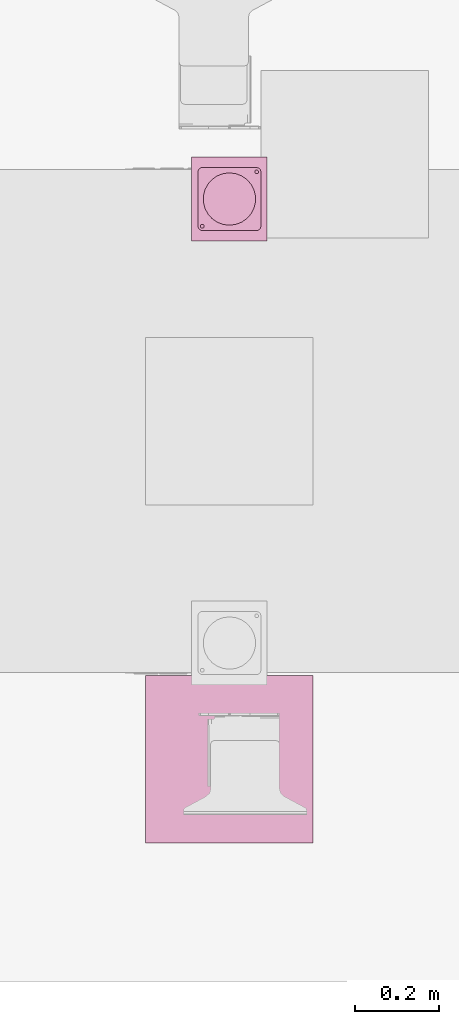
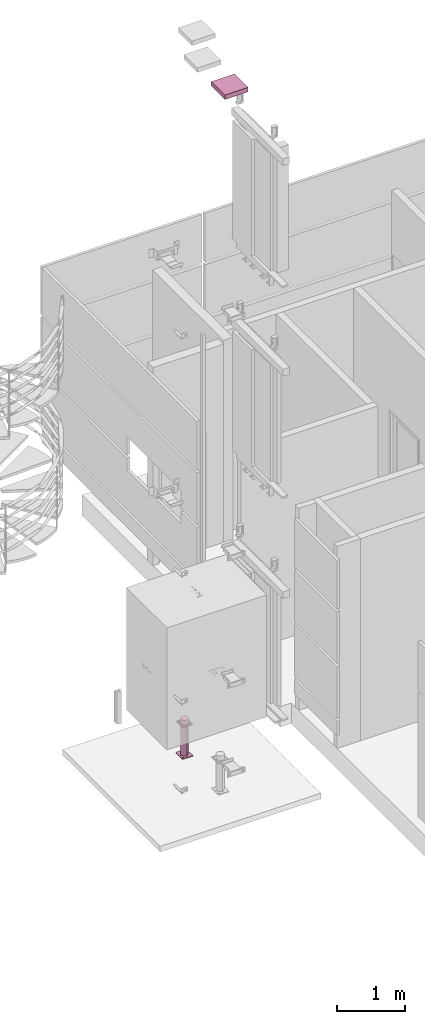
# One storey, part 12 of 15: 3 transport elements.
"""IFC2X3 building model written with IfcOpenShell, lengths in millimetres."""

from ifc_helpers import new_model, entity, si_unit, converted_unit, derived_unit, direction, frame, frame_2d, origin, place, context, subcontext, project, spatial, polyline, circle_curve, parameter, trimmed, segment, composite_curve, circle, outline, extrude, faceted_brep, source, transform, mapped, material, material_list, type_object, type_shapes, element, save


model = new_model("IFC2X3")

# Units and contexts
model_context = context("Model", 3, precision=0.01, world=origin(), true_north=direction((6.12303176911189e-17, 1.0)))
body_context = subcontext(model_context, "Body", "Model", "MODEL_VIEW")
ifc_project = project(units=[si_unit("LENGTHUNIT", "METRE", prefix="MILLI"), si_unit("AREAUNIT", "SQUARE_METRE"), si_unit("VOLUMEUNIT", "CUBIC_METRE"), converted_unit("PLANEANGLEUNIT", "DEGREE", entity("IfcRatioMeasure", 0.0174532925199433), si_unit("PLANEANGLEUNIT", "RADIAN"), dimensions=[0, 0, 0, 0, 0, 0, 0]), si_unit("MASSUNIT", "GRAM", prefix="KILO"), derived_unit("MASSDENSITYUNIT", [(si_unit("MASSUNIT", "GRAM", prefix="KILO"), 1), (si_unit("LENGTHUNIT", "METRE"), -3)]), si_unit("TIMEUNIT", "SECOND"), si_unit("FREQUENCYUNIT", "HERTZ"), si_unit("THERMODYNAMICTEMPERATUREUNIT", "DEGREE_CELSIUS"), derived_unit("THERMALTRANSMITTANCEUNIT", [(si_unit("MASSUNIT", "GRAM", prefix="KILO"), 1), (si_unit("THERMODYNAMICTEMPERATUREUNIT", "KELVIN"), -1), (si_unit("TIMEUNIT", "SECOND"), -3)]), derived_unit("VOLUMETRICFLOWRATEUNIT", [(si_unit("LENGTHUNIT", "METRE"), 3), (si_unit("TIMEUNIT", "SECOND"), -1)]), si_unit("ELECTRICCURRENTUNIT", "AMPERE"), si_unit("ELECTRICVOLTAGEUNIT", "VOLT"), si_unit("POWERUNIT", "WATT"), si_unit("FORCEUNIT", "NEWTON", prefix="KILO"), si_unit("ILLUMINANCEUNIT", "LUX"), si_unit("LUMINOUSFLUXUNIT", "LUMEN"), si_unit("LUMINOUSINTENSITYUNIT", "CANDELA"), derived_unit("USERDEFINED", [(si_unit("MASSUNIT", "GRAM", prefix="KILO"), -1), (si_unit("LENGTHUNIT", "METRE"), -2), (si_unit("TIMEUNIT", "SECOND"), 3), (si_unit("LUMINOUSFLUXUNIT", "LUMEN"), 1)]), derived_unit("LINEARVELOCITYUNIT", [(si_unit("LENGTHUNIT", "METRE"), 1), (si_unit("TIMEUNIT", "SECOND"), -1)]), si_unit("PRESSUREUNIT", "PASCAL"), derived_unit("USERDEFINED", [(si_unit("LENGTHUNIT", "METRE"), -2), (si_unit("MASSUNIT", "GRAM", prefix="KILO"), 1), (si_unit("TIMEUNIT", "SECOND"), -2)])], contexts=[model_context])

# Site, building, storey
site_placement = place(None, frame((-151.875543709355, 2715.0, 0.0)))
site = spatial("IfcSite", under=ifc_project, at=site_placement, Name="Surface", CompositionType="ELEMENT")
building_placement = place(site_placement, origin())
building = spatial("IfcBuilding", under=site, at=building_placement, CompositionType="ELEMENT")
storey_placement = place(building_placement, frame((0.0, 0.0, -135.0)))
storey = spatial("IfcBuildingStorey", under=building, at=storey_placement, Name="uus 1 korrus", CompositionType="ELEMENT", Elevation=-134.99999999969)

# Transport elements
transport_element_type_1 = type_object("IfcTransportElementType", Name="KONE_Buffer_PU_125x80D")
shared_shape_1 = source(origin(), body_context, "Body", "SweptSolid", [
    extrude(outline(composite_curve([segment(polyline([(-65.0, -75.0), (65.0, -75.0)]), True, "CONTINUOUS"), segment(trimmed(circle_curve(frame_2d((65.0, -65.0), x_axis=(-1.0, 0.0)), 10.0), [parameter(90.0000000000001)], [parameter(180.0)], True, "PARAMETER"), True, "CONTINUOUS"), segment(polyline([(75.0, -65.0), (75.0, 65.0)]), True, "CONTINUOUS"), segment(trimmed(circle_curve(frame_2d((65.0, 65.0), x_axis=(-1.0, 0.0)), 10.0), [parameter(180.0)], [parameter(269.999999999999)], True, "PARAMETER"), True, "CONTINUOUS"), segment(polyline([(65.0, 75.0), (-65.0, 75.0)]), True, "CONTINUOUS"), segment(trimmed(circle_curve(frame_2d((-65.0, 65.0), x_axis=(-1.0, 0.0)), 10.0), [parameter(269.999999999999)], [parameter(360.0)], True, "PARAMETER"), True, "CONTINUOUS"), segment(polyline([(-75.0, 65.0), (-75.0, -65.0)]), True, "CONTINUOUS"), segment(trimmed(circle_curve(frame_2d((-65.0, -65.0), x_axis=(-1.0, 0.0)), 10.0), [parameter(0.0)], [parameter(90.0000000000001)], True, "PARAMETER"), True, "CONTINUOUS")], self_intersect=False), holes=[composite_curve([segment(trimmed(circle_curve(frame_2d((65.0, -65.0), x_axis=(-1.0, 0.0)), 4.5), [parameter(180.0)], [parameter(0.0)], True, "PARAMETER"), False, "CONTINUOUS"), segment(trimmed(circle_curve(frame_2d((65.0, -65.0), x_axis=(-1.0, 0.0)), 4.5), [parameter(2.03555499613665e-13)], [parameter(180.0)], True, "PARAMETER"), False, "CONTINUOUS")], self_intersect=False), composite_curve([segment(trimmed(circle_curve(frame_2d((-65.0, 65.0), x_axis=(1.0, 0.0)), 4.5), [parameter(180.0)], [parameter(0.0)], True, "PARAMETER"), False, "CONTINUOUS"), segment(trimmed(circle_curve(frame_2d((-65.0, 65.0), x_axis=(1.0, 0.0)), 4.5), [parameter(4.07110999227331e-13)], [parameter(180.0)], True, "PARAMETER"), False, "CONTINUOUS")], self_intersect=False)]), frame((129.368600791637, 20.0915440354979, 0.0), z_axis=(0.0, 0.0, 1.0), x_axis=(-1.0, 0.0, 0.0)), (0.0, 0.0, 1.0), 2.99999999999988),
    extrude(circle(Radius=62.5, at=frame_2d((1.69197988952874e-14, -1.01518793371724e-13), x_axis=(1.0, 0.0))), frame((129.368600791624, 20.0915440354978, 3.0), z_axis=(0.0, 0.0, 1.0), x_axis=(-1.0, 0.0, 0.0)), (0.0, 0.0, 1.0), 79.9999999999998),
])
type_shapes(transport_element_type_1, [shared_shape_1])
transport_element_1_placement = place(storey_placement, frame((30776.7093111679, 21000.6313993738, -525.0), z_axis=(0.0, 0.0, 1.0), x_axis=(0.0, 1.0, 0.0)))
element("IfcTransportElement", 1, at=transport_element_1_placement, inside=storey, type_object=transport_element_type_1, Name="KONE_Buffer_PU_125x80D_CAR:KONE_Buffer_PU_125x80D", ObjectType="KONE_Buffer_PU_125x80D", CapacityByNumber=0.0, CapacityByWeight=0.0, OperationType="ELEVATOR", context=body_context, shape_type="MappedRepresentation", body=[
    mapped(shared_shape_1, transform((0.0, 0.0, 0.0), scale=1.0)),
])
transport_element_type_2 = type_object("IfcTransportElementType", Name="KONE_Buffer_Extension_KM812340G06")
shared_shape_2 = source(origin(), body_context, "Body", "Brep", [
    faceted_brep([(200.0, 180.0, 10.0), (182.499999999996, 37.9903810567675, 10.0), (184.374999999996, 34.7427857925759, 10.0), (186.249999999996, 31.4951905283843, 10.0), (188.124999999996, 28.2475952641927, 10.0), (190.0, 25.0, 10.0), (200.0, 0.0, 10.0), (178.749999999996, 37.9903810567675, 10.0), (175.0, 37.9903810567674, 10.0), (171.249999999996, 37.9903810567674, 10.0), (167.499999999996, 37.9903810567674, 10.0), (40.0, 155.0, 10.0), (38.1249999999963, 158.247595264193, 10.0), (36.2499999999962, 161.495190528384, 10.0), (34.3749999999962, 164.742785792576, 10.0), (32.4999999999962, 167.990381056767, 10.0), (0.0, 180.0, 10.0), (28.7499999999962, 167.990381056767, 10.0), (25.0, 167.990381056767, 10.0), (21.2499999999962, 167.990381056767, 10.0), (17.4999999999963, 167.990381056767, 10.0), (15.8630176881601, 165.155044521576, 10.0), (14.226035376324, 162.319707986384, 10.0), (12.1130176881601, 158.659853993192, 10.0), (10.0, 155.0, 10.0), (0.0, 0.0, 10.0), (167.499999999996, 12.0096189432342, 10.0), (165.624999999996, 15.2572142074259, 10.0), (163.749999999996, 18.5048094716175, 10.0), (161.874999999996, 21.7524047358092, 10.0), (160.0, 25.0, 10.0), (32.4999999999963, 142.009618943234, 10.0), (28.7499999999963, 142.009618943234, 10.0), (25.0, 142.009618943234, 10.0), (21.2499999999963, 142.009618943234, 10.0), (17.4999999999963, 142.009618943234, 10.0), (15.6249999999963, 145.257214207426, 10.0), (13.7499999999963, 148.504809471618, 10.0), (11.8749999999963, 151.752404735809, 10.0), (37.8869823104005, 151.340146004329, 10.0), (35.7739646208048, 147.680292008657, 10.0), (34.1369823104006, 144.844955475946, 10.0), (162.11301768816, 28.6598539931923, 10.0), (164.226035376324, 32.3197079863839, 10.0), (165.86301768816, 35.1550445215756, 10.0), (187.8869823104, 21.3401460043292, 10.0), (185.773964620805, 17.6802920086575, 10.0), (184.1369823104, 14.8449554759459, 10.0), (182.499999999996, 12.0096189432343, 10.0), (178.749999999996, 12.0096189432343, 10.0), (175.0, 12.0096189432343, 10.0), (171.249999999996, 12.0096189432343, 10.0), (0.0, 180.0, 0.0), (10.0, 155.0, 0.0), (0.0, 0.0, 0.0), (12.1130176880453, 158.659853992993, 0.0), (13.7499999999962, 161.495190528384, 0.0), (15.6249999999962, 164.742785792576, 0.0), (17.4999999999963, 167.990381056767, 0.0), (21.2499999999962, 167.990381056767, 0.0), (25.0, 167.990381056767, 0.0), (28.7499999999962, 167.990381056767, 0.0), (32.4999999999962, 167.990381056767, 0.0), (200.0, 180.0, 0.0), (34.3749999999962, 164.742785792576, 0.0), (36.2499999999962, 161.495190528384, 0.0), (37.8869823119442, 158.659853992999, 0.0), (40.0, 155.0, 0.0), (167.499999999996, 37.9903810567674, 0.0), (171.249999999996, 37.9903810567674, 0.0), (175.0, 37.9903810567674, 0.0), (178.749999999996, 37.9903810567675, 0.0), (182.499999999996, 37.9903810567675, 0.0), (184.374999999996, 34.7427857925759, 0.0), (186.249999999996, 31.4951905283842, 0.0), (187.886982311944, 28.6598539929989, 0.0), (190.0, 25.0, 0.0), (200.0, 0.0, 0.0), (167.499999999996, 12.0096189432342, 0.0), (171.249999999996, 12.0096189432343, 0.0), (175.0, 12.0096189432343, 0.0), (178.749999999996, 12.0096189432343, 0.0), (182.499999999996, 12.0096189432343, 0.0), (184.374999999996, 15.2572142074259, 0.0), (186.249999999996, 18.5048094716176, 0.0), (187.886982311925, 21.340146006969, 0.0), (37.8869823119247, 151.340146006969, 0.0), (36.2499999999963, 148.504809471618, 0.0), (34.3749999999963, 145.257214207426, 0.0), (32.4999999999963, 142.009618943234, 0.0), (165.624999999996, 34.7427857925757, 0.0), (163.749999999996, 31.4951905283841, 0.0), (162.113017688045, 28.6598539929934, 0.0), (160.0, 25.0, 0.0), (162.113017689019, 21.3401460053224, 0.0), (163.749999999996, 18.5048094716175, 0.0), (165.624999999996, 15.2572142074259, 0.0), (28.7499999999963, 142.009618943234, 0.0), (12.1130176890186, 151.340146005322, 0.0), (13.7499999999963, 148.504809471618, 0.0), (15.6249999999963, 145.257214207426, 0.0), (17.4999999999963, 142.009618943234, 0.0), (21.2499999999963, 142.009618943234, 0.0), (25.0, 142.009618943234, 0.0)], [[[0, 1, 2]], [[0, 2, 3]], [[0, 3, 4]], [[0, 4, 5]], [[5, 6, 0]], [[0, 7, 1]], [[0, 8, 7]], [[0, 9, 8]], [[0, 10, 9]], [[10, 0, 11]], [[0, 12, 11]], [[0, 13, 12]], [[0, 14, 13]], [[0, 15, 14]], [[15, 0, 16]], [[16, 17, 15]], [[16, 18, 17]], [[16, 19, 18]], [[16, 20, 19]], [[16, 21, 20]], [[16, 22, 21]], [[16, 23, 22]], [[16, 24, 23]], [[24, 16, 25]], [[6, 26, 25]], [[25, 26, 27]], [[25, 27, 28]], [[25, 28, 29]], [[25, 29, 30]], [[31, 25, 30]], [[25, 31, 32]], [[25, 32, 33]], [[25, 33, 34]], [[25, 34, 35]], [[25, 35, 36]], [[25, 36, 37]], [[25, 37, 38]], [[25, 38, 24]], [[10, 11, 39]], [[10, 39, 40]], [[10, 40, 41]], [[10, 41, 31]], [[31, 30, 42]], [[31, 42, 43]], [[31, 43, 44]], [[31, 44, 10]], [[6, 5, 45]], [[6, 45, 46]], [[6, 46, 47]], [[6, 47, 48]], [[6, 48, 49]], [[6, 49, 50]], [[6, 50, 51]], [[6, 51, 26]], [[52, 53, 54]], [[52, 55, 53]], [[52, 56, 55]], [[52, 57, 56]], [[52, 58, 57]], [[52, 59, 58]], [[52, 60, 59]], [[52, 61, 60]], [[52, 62, 61]], [[52, 63, 62]], [[63, 64, 62]], [[63, 65, 64]], [[63, 66, 65]], [[63, 67, 66]], [[67, 63, 68]], [[63, 69, 68]], [[63, 70, 69]], [[63, 71, 70]], [[63, 72, 71]], [[63, 73, 72]], [[63, 74, 73]], [[63, 75, 74]], [[63, 76, 75]], [[77, 76, 63]], [[78, 77, 54]], [[77, 78, 79]], [[77, 79, 80]], [[77, 80, 81]], [[77, 81, 82]], [[77, 82, 83]], [[77, 83, 84]], [[77, 84, 85]], [[77, 85, 76]], [[68, 86, 67]], [[68, 87, 86]], [[68, 88, 87]], [[68, 89, 88]], [[89, 68, 90]], [[89, 90, 91]], [[89, 91, 92]], [[89, 92, 93]], [[54, 89, 93]], [[54, 93, 94]], [[54, 94, 95]], [[54, 95, 96]], [[54, 96, 78]], [[54, 97, 89]], [[54, 53, 98]], [[54, 98, 99]], [[54, 99, 100]], [[54, 100, 101]], [[54, 101, 102]], [[54, 102, 103]], [[54, 103, 97]], [[16, 0, 63, 52]], [[25, 16, 52, 54]], [[6, 25, 54, 77]], [[0, 6, 77, 63]], [[20, 21, 22, 23, 24, 53, 55, 56, 57, 58]], [[12, 13, 14, 15, 62, 64, 65, 66, 67, 11]], [[62, 15, 17, 18, 19, 20, 58, 59, 60, 61]], [[31, 41, 40, 39, 11, 67, 86, 87, 88, 89]], [[38, 37, 36, 35, 101, 100, 99, 98, 53, 24]], [[101, 35, 34, 33, 32, 31, 89, 97, 103, 102]], [[10, 44, 43, 42, 30, 93, 92, 91, 90, 68]], [[4, 3, 2, 1, 72, 73, 74, 75, 76, 5]], [[72, 1, 7, 8, 9, 10, 68, 69, 70, 71]], [[48, 47, 46, 45, 5, 76, 85, 84, 83, 82]], [[29, 28, 27, 26, 78, 96, 95, 94, 93, 30]], [[78, 26, 51, 50, 49, 48, 82, 81, 80, 79]]]),
    faceted_brep([(100.0, 90.0, 565.0), (100.0, 159.850000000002, 565.0), (91.2687499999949, 151.118750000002, 565.0), (82.5374999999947, 142.387500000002, 565.0), (73.8062499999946, 133.656250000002, 565.0), (65.0749999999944, 124.925000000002, 565.0), (56.3437499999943, 116.193750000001, 565.0), (47.6124999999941, 107.462500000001, 565.0), (38.881249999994, 98.7312500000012, 565.0), (30.1499999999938, 90.0, 565.0), (38.3117181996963, 81.8382818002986, 565.0), (108.731249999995, 151.118750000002, 565.0), (117.462499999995, 142.387500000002, 565.0), (126.193749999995, 133.656250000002, 565.0), (134.924999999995, 124.925000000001, 565.0), (143.656249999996, 116.193750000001, 565.0), (152.387499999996, 107.462500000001, 565.0), (161.118749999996, 98.731250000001, 565.0), (169.849999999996, 90.0, 565.0), (46.4734363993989, 73.676563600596, 565.0), (55.7742181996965, 64.3757818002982, 565.0), (65.0749999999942, 55.0750000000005, 565.0), (73.8062499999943, 46.3437500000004, 565.0), (82.5374999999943, 37.6125000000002, 565.0), (91.2687499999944, 28.88125, 565.0), (100.0, 20.1499999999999, 565.0), (108.731249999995, 28.8812499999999, 565.0), (117.462499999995, 37.6125, 565.0), (126.193749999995, 46.3437500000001, 565.0), (134.924999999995, 55.0750000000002, 565.0), (143.656249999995, 63.8062500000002, 565.0), (152.387499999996, 72.5375000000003, 565.0), (161.118749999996, 81.2687500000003, 565.0), (100.0, 90.0, 10.0), (30.1499999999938, 90.0, 10.0), (38.3117182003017, 98.161718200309, 10.0), (46.4734364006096, 106.323436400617, 10.0), (55.774218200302, 115.624218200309, 10.0), (65.0749999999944, 124.925000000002, 10.0), (73.8062499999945, 133.656250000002, 10.0), (82.5374999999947, 142.387500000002, 10.0), (91.2687499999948, 151.118750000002, 10.0), (100.0, 159.850000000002, 10.0), (108.731249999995, 151.118750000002, 10.0), (117.462499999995, 142.387500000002, 10.0), (126.193749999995, 133.656250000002, 10.0), (134.924999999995, 124.925000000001, 10.0), (144.225781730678, 115.624218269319, 10.0), (153.52656346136, 106.323436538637, 10.0), (161.688281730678, 98.161718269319, 10.0), (169.849999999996, 90.0, 10.0), (161.688281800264, 81.8382818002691, 10.0), (38.8812499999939, 81.2687500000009, 10.0), (47.612499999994, 72.5375000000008, 10.0), (56.3437499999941, 63.8062500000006, 10.0), (65.0749999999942, 55.0750000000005, 10.0), (73.8062499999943, 46.3437500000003, 10.0), (82.5374999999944, 37.6125000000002, 10.0), (91.2687499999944, 28.88125, 10.0), (100.0, 20.1499999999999, 10.0), (153.526563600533, 73.6765636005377, 10.0), (144.225781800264, 64.3757818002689, 10.0), (134.924999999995, 55.0750000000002, 10.0), (126.193749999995, 46.3437500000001, 10.0), (117.462499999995, 37.6125, 10.0), (108.731249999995, 28.8812499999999, 10.0)], [[[0, 1, 2]], [[0, 2, 3]], [[0, 3, 4]], [[0, 4, 5]], [[0, 5, 6]], [[0, 6, 7]], [[0, 7, 8]], [[0, 8, 9]], [[0, 9, 10]], [[0, 11, 1]], [[0, 12, 11]], [[0, 13, 12]], [[0, 14, 13]], [[0, 15, 14]], [[0, 16, 15]], [[0, 17, 16]], [[0, 18, 17]], [[0, 10, 19]], [[0, 19, 20]], [[0, 20, 21]], [[0, 21, 22]], [[0, 22, 23]], [[0, 23, 24]], [[0, 24, 25]], [[0, 25, 26]], [[0, 26, 27]], [[0, 27, 28]], [[0, 28, 29]], [[0, 29, 30]], [[0, 30, 31]], [[0, 31, 32]], [[0, 32, 18]], [[33, 34, 35]], [[33, 35, 36]], [[33, 36, 37]], [[33, 37, 38]], [[33, 38, 39]], [[33, 39, 40]], [[33, 40, 41]], [[33, 41, 42]], [[33, 42, 43]], [[33, 43, 44]], [[33, 44, 45]], [[33, 45, 46]], [[33, 46, 47]], [[33, 47, 48]], [[33, 48, 49]], [[33, 49, 50]], [[33, 50, 51]], [[33, 52, 34]], [[33, 53, 52]], [[33, 54, 53]], [[33, 55, 54]], [[33, 56, 55]], [[33, 57, 56]], [[33, 58, 57]], [[33, 59, 58]], [[33, 51, 60]], [[33, 60, 61]], [[33, 61, 62]], [[33, 62, 63]], [[33, 63, 64]], [[33, 64, 65]], [[33, 65, 59]], [[47, 46, 45, 44, 43, 42, 1, 11, 12, 13, 14, 15, 16, 17, 18, 50, 49, 48]], [[36, 35, 34, 9, 8, 7, 6, 5, 4, 3, 2, 1, 42, 41, 40, 39, 38, 37]], [[34, 52, 53, 54, 55, 56, 57, 58, 59, 25, 24, 23, 22, 21, 20, 19, 10, 9]], [[30, 29, 28, 27, 26, 25, 59, 65, 64, 63, 62, 61, 60, 51, 50, 18, 32, 31]]]),
    faceted_brep([(200.0, 180.0, 575.0), (0.0, 180.0, 575.0), (0.0, 0.0, 575.0), (200.0, 0.0, 575.0), (200.0, 180.0, 565.0), (200.0, 0.0, 565.0), (0.0, 0.0, 565.0), (0.0, 180.0, 565.0)], [[[0, 1, 2, 3]], [[4, 5, 6, 7]], [[1, 0, 4, 7]], [[2, 1, 7, 6]], [[3, 2, 6, 5]], [[0, 3, 5, 4]]]),
])
type_shapes(transport_element_type_2, [shared_shape_2])
transport_element_2_placement = place(storey_placement, frame((30846.6177671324, 21030.0, -1100.0), z_axis=(0.0, 0.0, 1.0), x_axis=(0.0, 1.0, 0.0)))
element("IfcTransportElement", 2, at=transport_element_2_placement, inside=storey, type_object=transport_element_type_2, Name="KONE_Buffer_Extension_KM812340G06_CAR:KONE_Buffer_Extension_KM812340G06", ObjectType="KONE_Buffer_Extension_KM812340G06", CapacityByNumber=0.0, CapacityByWeight=0.0, OperationType="ELEVATOR", context=body_context, shape_type="MappedRepresentation", body=[
    mapped(shared_shape_2, transform((0.0, 0.0, 0.0), scale=1.0)),
])
ifc_material_1 = material(Name="Site specified")
ifc_material_2 = material(Name="Void")
ifc_material_list_1 = material_list([ifc_material_1, ifc_material_2])
ifc_material_list_2 = material_list([ifc_material_1, ifc_material_2])
transport_element_type_3 = type_object("IfcTransportElementType", Name="KONE_Hook_Embedded", material=ifc_material_list_2)
shared_shape_3 = source(origin(), body_context, "Body", "Brep", [
    faceted_brep([(175.0, 200.0, 81.595272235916), (170.750000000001, 207.361215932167, 81.595272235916), (162.250000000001, 207.361215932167, 81.595272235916), (158.0, 200.0, 81.595272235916), (162.250000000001, 192.638784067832, 81.595272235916), (170.750000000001, 192.638784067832, 81.595272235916), (242.0, 200.0, 81.595272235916), (237.750000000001, 207.361215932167, 81.595272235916), (229.250000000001, 207.361215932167, 81.595272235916), (225.0, 200.0, 81.595272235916), (229.250000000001, 192.638784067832, 81.595272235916), (237.750000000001, 192.638784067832, 81.595272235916), (158.0, 200.0, 43.5952722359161), (160.673921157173, 195.368632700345, 43.5952722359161), (162.250000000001, 192.638784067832, 43.5952722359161), (166.500000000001, 192.638784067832, 43.5952722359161), (170.750000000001, 192.638784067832, 43.5952722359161), (229.250000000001, 192.638784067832, 43.5952722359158), (233.500000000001, 192.638784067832, 43.5952722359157), (237.750000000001, 192.638784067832, 43.5952722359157), (175.0, 200.0, 43.5952722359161), (170.750000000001, 207.361215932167, 43.5952722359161), (166.500000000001, 207.361215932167, 43.5952722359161), (162.250000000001, 207.361215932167, 43.5952722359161), (237.750000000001, 207.361215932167, 43.5952722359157), (233.500000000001, 207.361215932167, 43.5952722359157), (229.250000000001, 207.361215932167, 43.5952722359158), (161.461960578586, 205.996291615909, 43.5952722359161), (160.673921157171, 204.631367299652, 43.5952722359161), (162.739280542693, 200.0, 38.8559916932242), (165.108920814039, 200.0, 36.4863514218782), (167.478561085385, 200.0, 34.1167111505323), (164.274666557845, 192.556890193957, 31.8552444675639), (170.151341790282, 191.500751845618, 28.6371345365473), (218.514717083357, 193.495922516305, 9.30165926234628), (213.964839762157, 191.53367043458, 13.9783078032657), (211.717232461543, 193.586955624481, 6.31447236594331), (182.717841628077, 200.0, 18.8774306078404), (188.478561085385, 200.0, 13.1167111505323), (178.921209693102, 191.513444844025, 16.9460358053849), (227.782158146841, 200.0, 29.3774303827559), (232.521438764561, 200.0, 34.1167110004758), (235.725333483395, 192.55689021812, 31.8552444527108), (239.630359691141, 200.0, 41.2256319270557), (242.0, 200.0, 43.5952722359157), (240.663039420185, 197.68431634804, 43.5952722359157), (239.326078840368, 195.368632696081, 43.5952722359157), (237.260719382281, 200.0, 38.8559916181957), (234.129638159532, 194.095774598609, 23.4831882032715), (229.848658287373, 191.500751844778, 28.6371345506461), (225.0, 200.0, 43.5952722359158), (184.304413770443, 193.153733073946, 19.8518537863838), (187.955931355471, 200.0, 25.7629625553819), (183.637287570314, 200.0, 31.7070657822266), (184.198477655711, 191.759817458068, 11.7104625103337), (190.646718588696, 191.699041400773, 9.52722177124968), (220.909321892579, 200.0, 40.6232206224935), (224.734621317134, 191.827204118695, 24.6370744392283), (224.197115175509, 193.596445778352, 12.8950687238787), (211.521438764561, 200.0, 13.116711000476), (176.957122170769, 200.0, 24.6381500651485), (170.677751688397, 193.693589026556, 17.5804429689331), (219.982084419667, 191.517649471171, 17.3925019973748), (212.727965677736, 200.0, 34.6791173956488), (208.637287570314, 200.0, 31.7070657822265), (223.042877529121, 200.0, 24.638149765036), (229.322248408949, 193.69358909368, 17.5804429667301), (217.282158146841, 200.0, 18.877430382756), (207.423162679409, 191.504140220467, 11.2001471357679), (198.980548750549, 191.52232621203, 10.7267461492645), (193.848726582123, 193.221652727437, 15.8988818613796), (204.536350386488, 194.198533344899, 4.14289208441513), (197.961082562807, 193.870239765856, 4.25944253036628), (200.0, 200.0, 1.59527223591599), (179.350014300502, 193.724015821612, 25.0316010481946), (166.795276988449, 194.00747954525, 22.1493340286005), (174.843148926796, 191.718097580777, 24.4938908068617), (194.239280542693, 200.0, 7.35599169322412), (179.318643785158, 200.0, 37.6511690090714), (204.546609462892, 200.0, 28.7350141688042), (200.455931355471, 200.0, 25.7629625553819), (172.217841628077, 200.0, 29.3774306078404), (216.818643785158, 200.0, 37.6511690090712), (205.760719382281, 200.0, 7.35599161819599), (196.365253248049, 200.0, 22.7909109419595), (192.274575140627, 200.0, 19.8188593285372), (170.15134179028, 208.499248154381, 28.6371345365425), (164.274666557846, 207.443109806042, 31.8552444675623), (166.795276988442, 205.992520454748, 22.1493340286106), (224.734621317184, 208.172795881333, 24.6370744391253), (213.964839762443, 208.466329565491, 13.9783078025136), (219.98208441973, 208.482350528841, 17.3925019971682), (218.514717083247, 206.504077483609, 9.3016592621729), (170.677751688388, 206.306410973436, 17.5804429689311), (178.92120969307, 208.486555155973, 16.9460358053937), (179.350014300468, 206.275984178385, 25.0316010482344), (184.304413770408, 206.846266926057, 19.8518537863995), (229.848658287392, 208.499248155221, 28.6371345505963), (235.725333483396, 207.443109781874, 31.8552444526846), (184.198477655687, 208.240182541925, 11.7104625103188), (229.322248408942, 206.306410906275, 17.5804429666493), (174.843148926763, 208.281902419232, 24.493890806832), (240.663039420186, 202.315683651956, 43.5952722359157), (239.32607884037, 204.631367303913, 43.5952722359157), (224.197115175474, 206.403554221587, 12.8950687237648), (234.129638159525, 205.904225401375, 23.4831882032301), (212.039670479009, 206.30567904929, 6.29010621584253), (198.756972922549, 205.994010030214, 4.08806162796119), (204.959766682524, 205.729975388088, 4.12736168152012), (199.025537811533, 208.499563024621, 10.1956727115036), (207.423162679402, 208.495859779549, 11.2001471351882), (194.117591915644, 206.800041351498, 15.8110967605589), (190.646718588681, 208.300958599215, 9.52722177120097)], [[[0, 1, 2, 3, 4, 5]], [[6, 7, 8, 9, 10, 11]], [[3, 12, 13, 14, 4]], [[4, 14, 15, 16, 5]], [[11, 10, 17, 18, 19]], [[16, 20, 0, 5]], [[20, 21, 1, 0]], [[1, 21, 22, 23, 2]], [[8, 7, 24, 25, 26]], [[2, 23, 27, 28, 12, 3]], [[13, 12, 29, 30, 31, 14]], [[15, 31, 32]], [[33, 20, 16]], [[31, 15, 14]], [[32, 16, 15]], [[34, 35, 36]], [[37, 38, 39]], [[40, 41, 42]], [[43, 44, 45, 46, 19, 41, 47]], [[40, 42, 48]], [[17, 49, 42]], [[17, 50, 49]], [[51, 52, 53]], [[54, 55, 51]], [[54, 51, 39]], [[49, 56, 57]], [[58, 34, 59]], [[60, 37, 61]], [[62, 58, 57]], [[62, 63, 64]], [[65, 66, 67]], [[68, 36, 35]], [[66, 65, 48]], [[69, 70, 55]], [[71, 72, 73]], [[74, 51, 53]], [[33, 75, 61]], [[61, 76, 33]], [[55, 77, 72]], [[71, 69, 72]], [[37, 39, 61]], [[76, 61, 39]], [[39, 74, 76]], [[78, 76, 74]], [[70, 52, 51]], [[20, 33, 78]], [[74, 39, 51]], [[74, 53, 78]], [[33, 76, 78]], [[51, 55, 70]], [[39, 38, 54]], [[79, 80, 68]], [[61, 75, 60]], [[31, 81, 32]], [[75, 81, 60]], [[33, 16, 32]], [[41, 19, 18]], [[42, 41, 18]], [[42, 18, 17]], [[48, 42, 49]], [[59, 67, 58]], [[57, 66, 49]], [[58, 67, 66]], [[57, 56, 82, 63]], [[57, 58, 66]], [[58, 62, 34]], [[35, 34, 62]], [[83, 36, 71]], [[57, 63, 62]], [[34, 36, 59]], [[35, 64, 79]], [[71, 36, 68]], [[36, 83, 59]], [[71, 68, 69]], [[83, 71, 73]], [[68, 80, 69]], [[69, 84, 70]], [[69, 55, 72]], [[38, 77, 54]], [[55, 54, 77]], [[77, 73, 72]], [[70, 85, 52]], [[84, 69, 80]], [[84, 85, 70]], [[62, 64, 35]], [[33, 32, 75]], [[81, 75, 32]], [[35, 79, 68]], [[66, 48, 49]], [[40, 48, 65]], [[56, 49, 50]], [[21, 86, 87]], [[81, 87, 88]], [[20, 86, 21]], [[63, 82, 56, 89]], [[90, 91, 92]], [[27, 23, 31, 30, 29, 12, 28]], [[88, 93, 60]], [[37, 94, 38]], [[24, 41, 25]], [[95, 53, 96]], [[97, 50, 26]], [[25, 41, 98]], [[81, 31, 87]], [[98, 26, 25]], [[99, 94, 96]], [[100, 89, 97]], [[101, 78, 95]], [[102, 44, 43, 47, 41, 24, 103]], [[67, 104, 100]], [[100, 97, 105]], [[92, 91, 104]], [[89, 56, 97]], [[106, 59, 83]], [[107, 108, 73]], [[109, 110, 108]], [[93, 101, 94]], [[93, 37, 60]], [[111, 96, 52]], [[105, 97, 98]], [[112, 77, 99]], [[101, 93, 86]], [[94, 37, 93]], [[111, 52, 85]], [[95, 94, 101]], [[20, 78, 86]], [[95, 96, 94]], [[53, 52, 96]], [[101, 86, 78]], [[78, 53, 95]], [[99, 96, 112]], [[107, 77, 112]], [[38, 94, 99]], [[109, 111, 84]], [[110, 80, 79]], [[41, 40, 98]], [[105, 40, 65]], [[97, 26, 98]], [[31, 23, 22]], [[87, 31, 22]], [[87, 22, 21]], [[88, 86, 93]], [[59, 92, 104]], [[65, 67, 100]], [[100, 104, 89]], [[91, 64, 63]], [[56, 50, 97]], [[59, 104, 67]], [[89, 104, 91]], [[106, 90, 92]], [[106, 92, 59]], [[40, 105, 98]], [[110, 106, 108]], [[91, 90, 64]], [[108, 106, 83]], [[110, 90, 106]], [[83, 73, 108]], [[108, 107, 109]], [[111, 109, 112]], [[80, 110, 109]], [[96, 111, 112]], [[84, 80, 109]], [[111, 85, 84]], [[81, 88, 60]], [[112, 109, 107]], [[63, 89, 91]], [[77, 107, 73]], [[38, 99, 77]], [[87, 86, 88]], [[79, 90, 110]], [[79, 64, 90]], [[100, 105, 65]], [[6, 11, 19, 46, 45, 44]], [[10, 9, 50, 17]], [[9, 8, 26, 50]], [[7, 6, 44, 102, 103, 24]]]),
    faceted_brep([(0.0, 400.0, 81.595272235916), (0.0, 0.0, 81.595272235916), (400.0, 0.0, 81.595272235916), (400.0, 400.0, 81.595272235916), (0.0, 400.0, 1.595272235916), (400.0, 400.0, 1.595272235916), (400.0, 0.0, 1.595272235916), (0.0, 0.0, 1.595272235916)], [[[0, 1, 2, 3]], [[4, 5, 6, 7]], [[1, 0, 4, 7]], [[2, 1, 7, 6]], [[3, 2, 6, 5]], [[0, 3, 5, 4]]]),
])
type_shapes(transport_element_type_3, [shared_shape_3])
transport_element_3_placement = place(storey_placement, frame((30956.6177671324, 19593.0, 11703.4047277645), z_axis=(0.0, 0.0, 1.0), x_axis=(0.0, 1.0, 0.0)))
element("IfcTransportElement", 3, at=transport_element_3_placement, inside=storey, type_object=transport_element_type_3, material=ifc_material_list_1, Name="KONE_Hook_Embedded:KONE_Hook_Embedded", ObjectType="KONE_Hook_Embedded", CapacityByNumber=0.0, CapacityByWeight=0.0, OperationType="ELEVATOR", context=body_context, shape_type="MappedRepresentation", body=[
    mapped(shared_shape_3, transform((0.0, 0.0, 0.0), scale=1.0)),
])

save(model, "model.ifc")
